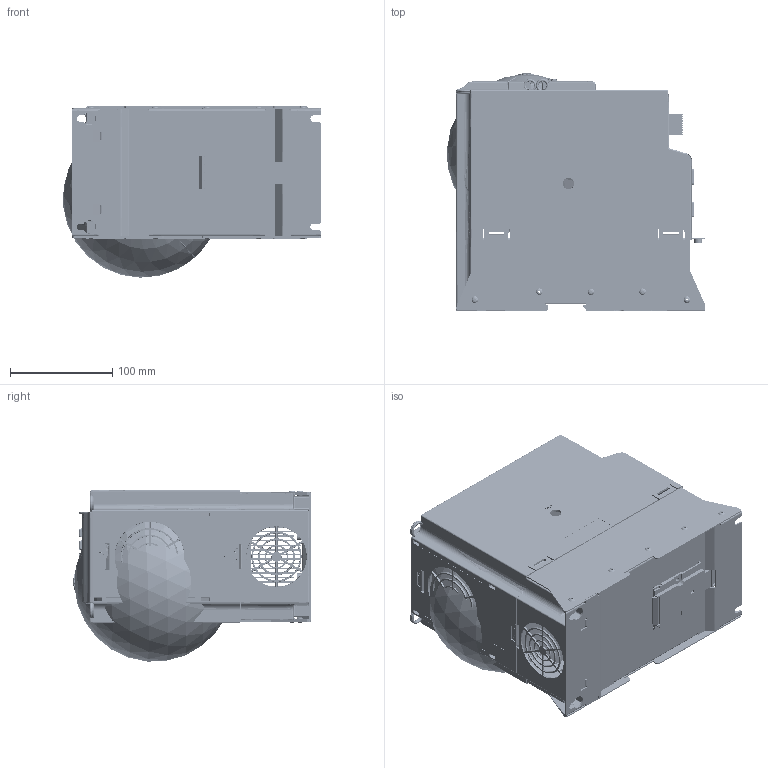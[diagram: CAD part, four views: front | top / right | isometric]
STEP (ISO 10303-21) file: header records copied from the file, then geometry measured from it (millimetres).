
FILE_DESCRIPTION((''),'2;1');
FILE_NAME('EFCX610_5_5_7_5KW_E_HOUSING_STO','2018-06-26T10:20:53',('sha2xi'),(''),'CREO PARAMETRIC BY PTC INC, 2017260','CREO PARAMETRIC BY PTC INC, 2017260','');
FILE_SCHEMA(('AUTOMOTIVE_DESIGN { 1 0 10303 214 1 1 1 1 }'));
Products named in the file (50): VFCX610-5P5KW__BASE_1_1; VFCX610-5P5KW_BLACK-PLATE_1_1; VFCX610-5P5KW_BASE-REVIT_1_1; VFCX610-5P5KW_BASE_1_1; VFCX610_DIN_COVER_1_1; VFCX610_DIN_SPRING-PART_1_1; VFCX610-DIN_1_1; VFCX610-7P5KW_HEATSINK_1_1; EFCX610-5P5KW_HOUSING_1_1; IO-COVER_1; LK_YCP06-PLATINE_20150206_1_1; CONNECTOR_20150206_1_1; CONNECTOR_TYCO-331_20150206_1_1; 548190519_20150206_1_1; CONNECT2-2_20150206_1_1; 2185-205SY3_20150206_1_1; 1155590000_20150206_1_1; MCDN_20150206_1-2010253_1; MCDN_20150206_1-2010281_1; 1953800_20150206_1_1; LK_YCP06_20150206_1_1; DB272710_20150206_1_1; 01-IOBACK_CASE_20150206_1_1; LD_KCCT_M3X10_20150206_1_1; 01_DISPLAYCASE__20150206_1_1; DISPLAY_PCB1__20150206_1_1; R911329772__20150206_1_1; R911330025__20150206_1_1; LED__20150206_1_1; CONNECTOR2__20150206_1_1; CONNECTOR_TYCO-331__20150206_1_; DISPLAY_PCB__20150206_1_1; BACK_CASE1__20150206_1_1; R911330333_FOLIE__20150206_1_1; BUUTTON__20150206_1_1; XUAN_NIU__20150206_1_1; LD_KCCT_M3X10__20150206_1_1; LABEL_15X50__20150206_1_1; LED_PANLE_20150206_1_1; PANEL_CONVER_20150206_1_1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
Assembly tree (66 placements, depth 8):
  EFCX610_5_5_7_5KW_E_HOUSING_STO
    EFCX610-E_HOUSING-STO_1
      00_EFCX610-7P5KW-STO_10_1
        VFCX610-5P5KW_BASE_1_1
          VFCX610-5P5KW__BASE_1_1
          VFCX610-5P5KW_BLACK-PLATE_1_1
          VFCX610-5P5KW_BASE-REVIT_1_1  x10
        VFCX610-DIN_1_1
          VFCX610_DIN_COVER_1_1
          VFCX610_DIN_SPRING-PART_1_1
        VFCX610-7P5KW_HEATSINK_1_1
        EFCX610-5P5KW_HOUSING_1_1
        00_VFCX610_IO-BOX_1_1
          IO-COVER_1
          LK_YCP06_20150206_1_1
            LK_YCP06-PLATINE_20150206_1_1
            CONNECTOR_20150206_1_1
            CONNECTOR_TYCO-331_20150206_1_1
            548190519_20150206_1_1
            CONNECT2-2_20150206_1_1
            2185-205SY3_20150206_1_1
            1155590000_20150206_1_1
            1953800_20150206_1_1
              MCDN_20150206_1-2010281_1
                MCDN_20150206_1-2010253_1
          DB272710_20150206_1_1
          01-IOBACK_CASE_20150206_1_1
          LD_KCCT_M3X10_20150206_1_1  x2
          LED_PANLE_20150206_1_1
            01_DISPLAYCASE__20150206_1_1
            DISPLAY_PCB__20150206_1_1
              DISPLAY_PCB1__20150206_1_1
              R911329772__20150206_1_1  x6
              R911330025__20150206_1_1
              LED__20150206_1_1
              CONNECTOR2__20150206_1_1
              CONNECTOR_TYCO-331__20150206_1_
            BACK_CASE1__20150206_1_1
            R911330333_FOLIE__20150206_1_1
            BUUTTON__20150206_1_1
            XUAN_NIU__20150206_1_1
            LD_KCCT_M3X10__20150206_1_1  x2
            LABEL_15X50__20150206_1_1
          PANEL_CONVER_20150206_1_1
          LDZHJ_SZCYZT_M3X8_1_1  x2
        VFCX610-5P5KW_FAN_DOWN_1_1
          VFCX610-5P5KW_FAN-COVER_DOWN_1_
        EFCX610-5P5KW_FAN_UPPER_1_1
          EFCX610-5P5KW_FAN-COVER_UPPER_1
        STO_2_1_1
Bounding box: 252.15 x 232.15 x 167.62 mm (x, y, z)
Surface area: 1116953.6 mm2 (no closed solid volume)
Topology: 0 solids, 0 shells, 12636 faces, 68296 edges, 67739 vertices
Faces by surface type: bspline 12107, torus 367, sphere 162
Entity records: 1421294 total; most frequent: CARTESIAN_POINT 450300, DIRECTION 113873, TRIMMED_CURVE 106858, VECTOR 101167, LINE 101167, PRESENTATION_STYLE_ASSIGNMENT 75535, STYLED_ITEM 75350, CURVE_STYLE 63456
